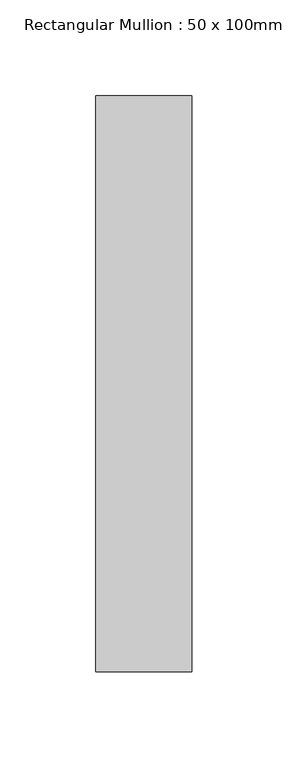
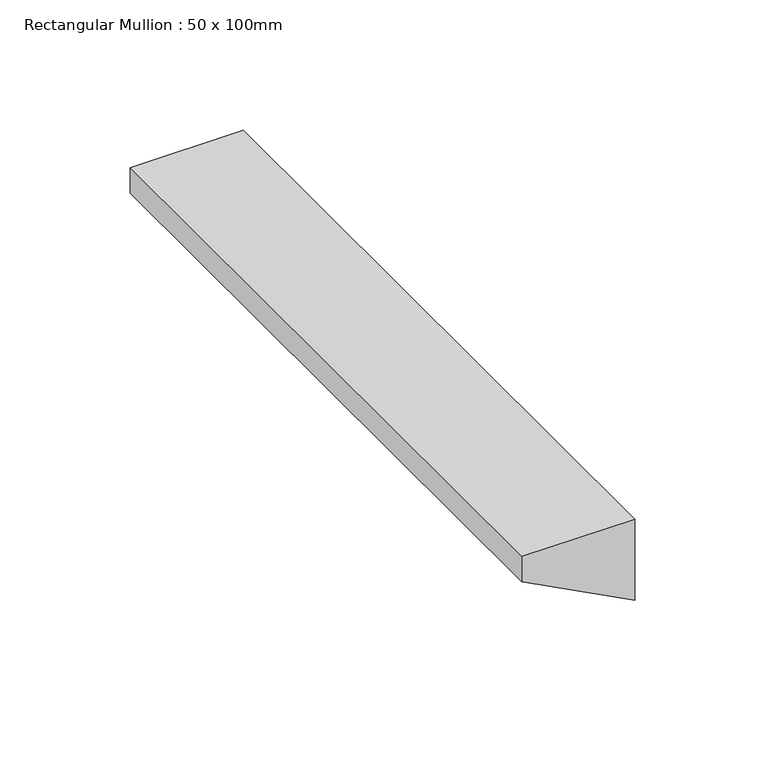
"""IFC4 building model written with IfcOpenShell, lengths in millimetres: member geometry, Rectangular Mullion : 50 x 100mm."""

import ifcopenshell
import ifcopenshell.guid

model = None  # the IFC model being written
_history = None  # IfcOwnerHistory: only IFC2X3 demands one
_inside = {}  # id of a spatial element -> (the spatial element, [elements in it])
_under = {}  # id of a project, library or spatial element -> (it, [spatial elements below it])
_declared = {}  # id of a project -> (the project, [libraries it declares])
_typed = {}  # id of a type object -> (the type object, [elements of that type])
_made_of = {}  # id of a material, layer set ... -> (it, [elements and type objects made of it])


def new_model(schema):
    """Start an empty IFC model of exactly this schema.

    Asked for "IFC4X3", IfcOpenShell would pick the latest addendum, in which some entities
    have other attributes; the version numbers below select the first issue.
    IFC2X3 requires an IfcOwnerHistory on every rooted entity: one is made here for all.
    """
    global model, _history
    if schema == "IFC4X3":
        model = ifcopenshell.file(schema_version=(4, 3, 0, 0))
    else:
        model = ifcopenshell.file(schema=schema)
    _inside.clear()
    _under.clear()
    _declared.clear()
    _typed.clear()
    _made_of.clear()
    _history = None
    if model.schema == "IFC2X3":
        org = make("IfcOrganization", Name="unknown")
        user = make(
            "IfcPersonAndOrganization",
            ThePerson=make("IfcPerson", FamilyName="unknown"),
            TheOrganization=org,
        )
        app = make(
            "IfcApplication",
            ApplicationDeveloper=org,
            Version="unknown",
            ApplicationFullName="unknown",
            ApplicationIdentifier="unknown",
        )
        _history = make(
            "IfcOwnerHistory",
            OwningUser=user,
            OwningApplication=app,
            ChangeAction="ADDED",
            CreationDate=0,
        )
    return model


def make(cls, **values):
    """One entity of the class cls with the attributes given. An attribute that is None is left unset."""
    return model.create_entity(
        cls, **{name: value for name, value in values.items() if value is not None}
    )


def rooted(cls, **values):
    """An entity with a GlobalId (a new one), such as an element, a storey or a relation."""
    return make(cls, GlobalId=ifcopenshell.guid.new(), OwnerHistory=_history, **values)


def si_unit(unit_type, name, prefix=None):
    """IfcSIUnit, for example si_unit("LENGTHUNIT", "METRE", prefix="MILLI")."""
    return make("IfcSIUnit", UnitType=unit_type, Prefix=prefix, Name=name)


def assignment(units):
    """IfcUnitAssignment: the units of a project."""
    return None if units is None else make("IfcUnitAssignment", Units=units)


def point(xyz):
    """IfcCartesianPoint."""
    return None if xyz is None else make("IfcCartesianPoint", Coordinates=xyz)


def direction(xyz):
    """IfcDirection."""
    return None if xyz is None else make("IfcDirection", DirectionRatios=xyz)


def frame(location, z_axis=None, x_axis=None):
    """IfcAxis2Placement3D, a coordinate frame: its origin and axes. An axis left out is left unset."""
    return make(
        "IfcAxis2Placement3D",
        Location=point(location),
        Axis=direction(z_axis),
        RefDirection=direction(x_axis),
    )


def origin():
    """The frame at (0, 0, 0) with its axes left unset."""
    return frame((0.0, 0.0, 0.0))


def place(relative_to, where):
    """IfcLocalPlacement: puts the frame where relative to a parent placement (None: the world)."""
    return make(
        "IfcLocalPlacement", PlacementRelTo=relative_to, RelativePlacement=where
    )


def context(
    kind, dimensions, precision=None, world=None, true_north=None, identifier=None
):
    """IfcGeometricRepresentationContext, for example the 3D "Model" context."""
    return make(
        "IfcGeometricRepresentationContext",
        ContextIdentifier=identifier,
        ContextType=kind,
        CoordinateSpaceDimension=dimensions,
        Precision=precision,
        WorldCoordinateSystem=world,
        TrueNorth=true_north,
    )


def project(units=None, contexts=None):
    """IfcProject with its units and contexts."""
    return rooted(
        "IfcProject",
        Name="project",
        RepresentationContexts=contexts,
        UnitsInContext=assignment(units),
    )


def spatial(cls, under=None, at=None, **own):
    """A site, building, storey or space (cls), placed at a placement, below another one or the project."""
    s = rooted(cls, ObjectPlacement=at, **own)
    if under is not None:
        _under.setdefault(under.id(), (under, []))[1].append(s)
    return s


def polyline(points):
    """IfcPolyline through the points."""
    return make("IfcPolyline", Points=[point(p) for p in points])


def outline(outer, holes=None, kind="AREA"):
    """IfcArbitraryClosedProfileDef: a profile drawn as a closed curve; with holes, ...WithVoids."""
    if holes is None:
        return make("IfcArbitraryClosedProfileDef", ProfileType=kind, OuterCurve=outer)
    return make(
        "IfcArbitraryProfileDefWithVoids",
        ProfileType=kind,
        OuterCurve=outer,
        InnerCurves=holes,
    )


def extrude(swept, where, along, depth):
    """IfcExtrudedAreaSolid: the profile swept, set in the frame where, extruded along a direction by depth."""
    return make(
        "IfcExtrudedAreaSolid",
        SweptArea=swept,
        Position=where,
        ExtrudedDirection=direction(along),
        Depth=depth,
    )


def shape(context_of_items, identifier, shape_type, items):
    """IfcShapeRepresentation: the items that make up one representation, for example the "Body"."""
    return make(
        "IfcShapeRepresentation",
        ContextOfItems=context_of_items,
        RepresentationIdentifier=identifier,
        RepresentationType=shape_type,
        Items=items,
    )


def source(mapping_origin, context_of_items, identifier, shape_type, items):
    """IfcRepresentationMap: a shape defined once, which mapped items show again and again."""
    return make(
        "IfcRepresentationMap",
        MappingOrigin=mapping_origin,
        MappedRepresentation=shape(context_of_items, identifier, shape_type, items),
    )


def transform(
    local_origin,
    x_axis=None,
    y_axis=None,
    z_axis=None,
    scale=None,
    scale2=None,
    scale3=None,
    uniform=True,
):
    """IfcCartesianTransformationOperator3D, or its non-uniform kind. x_axis, y_axis, z_axis: its Axis1, 2, 3."""
    if uniform:
        return make(
            "IfcCartesianTransformationOperator3D",
            Axis1=direction(x_axis),
            Axis2=direction(y_axis),
            LocalOrigin=point(local_origin),
            Scale=scale,
            Axis3=direction(z_axis),
        )
    return make(
        "IfcCartesianTransformationOperator3DnonUniform",
        Axis1=direction(x_axis),
        Axis2=direction(y_axis),
        LocalOrigin=point(local_origin),
        Scale=scale,
        Axis3=direction(z_axis),
        Scale2=scale2,
        Scale3=scale3,
    )


def mapped(mapping_source, mapping_target):
    """IfcMappedItem: shows the shape of a source again, moved by a transform."""
    return make(
        "IfcMappedItem", MappingSource=mapping_source, MappingTarget=mapping_target
    )


def made_of(thing, what):
    """Note that an element or type object is made of a material, layer set ...; save() writes the relation."""
    if what is not None:
        _made_of.setdefault(what.id(), (what, []))[1].append(thing)
    return thing


def element(
    cls,
    number,
    at=None,
    inside=None,
    cuts=None,
    type_object=None,
    material=None,
    context=None,
    identifier="Body",
    shape_type=None,
    held_by="IfcProductDefinitionShape",
    body=None,
    shapes=None,
    **own,
):
    """One element of the class cls, such as IfcWall. Its Tag is "e" and its number.

    at: its placement. inside: the storey or other place that contains it. cuts: it is an
    opening in that element (IfcRelVoidsElement). A single representation is given by context,
    identifier, shape_type and body (its items); several are given by shapes. held_by: the class
    of the entity that holds the representations. save() writes the other relations.
    """
    e = rooted(cls, Tag="e%d" % number, ObjectPlacement=at, **own)
    if body is not None:
        shapes = [shape(context, identifier, shape_type, body)]
    if shapes is not None:
        e.Representation = make(held_by, Representations=shapes)
    if inside is not None:
        _inside.setdefault(inside.id(), (inside, []))[1].append(e)
    if cuts is not None:
        rooted(
            "IfcRelVoidsElement", RelatingBuildingElement=cuts, RelatedOpeningElement=e
        )
    if type_object is not None:
        _typed.setdefault(type_object.id(), (type_object, []))[1].append(e)
    return made_of(e, material)


def aggregate(whole, parts):
    """IfcRelAggregates: a whole, such as a stair, and the parts it consists of."""
    return rooted("IfcRelAggregates", RelatingObject=whole, RelatedObjects=parts)


def save(model, path):
    """Write the relations noted so far, then the file.

    IfcRelAggregates (storeys below a building ...), IfcRelContainedInSpatialStructure (elements
    in a storey), IfcRelDefinesByType, IfcRelAssociatesMaterial and IfcRelDeclares: one each for
    every whole, place, type object, material and project.
    """
    for whole, parts in _under.values():
        aggregate(whole, parts)
    for where, things in _inside.values():
        rooted(
            "IfcRelContainedInSpatialStructure",
            RelatedElements=things,
            RelatingStructure=where,
        )
    for kind, things in _typed.values():
        rooted("IfcRelDefinesByType", RelatedObjects=things, RelatingType=kind)
    for what, things in _made_of.values():
        rooted("IfcRelAssociatesMaterial", RelatedObjects=things, RelatingMaterial=what)
    for by, libraries in _declared.values():
        rooted("IfcRelDeclares", RelatingContext=by, RelatedDefinitions=libraries)
    model.write(path)


def rectangular_mullion_50_x_100mm_7429a864(model_context):
    return source(origin(), model_context, "Body", "SweptSolid", [
        extrude(outline(polyline([(0.0, 0.0), (0.0, -50.0), (-11.9716475, -50.0), (-38.0, 0.0), (0.0, 0.0)])), frame((0.0, -125.0, 0.0), z_axis=(0.0, 1.0, 0.0), x_axis=(0.0, 0.0, 1.0)), (0.0, 0.0, 1.0), 300.0),
    ])


if __name__ == "__main__":
    model = new_model("IFC4")
    model_context = context("Model", 3, world=origin())
    ifc_project = project(units=[si_unit("LENGTHUNIT", "METRE", prefix="MILLI")], contexts=[model_context])
    site = spatial("IfcSite", under=ifc_project)
    building = spatial("IfcBuilding", under=site)
    placement = place(None, origin())
    rectangular_mullion_50_x_100mm_shape = rectangular_mullion_50_x_100mm_7429a864(model_context)
    element("IfcMember", 1, ObjectType="Rectangular Mullion : 50 x 100mm", at=placement, inside=building, context=model_context, shape_type="MappedRepresentation", body=[
        mapped(rectangular_mullion_50_x_100mm_shape, transform((0.0, 0.0, 0.0), x_axis=(1.0, 0.0, 0.0), y_axis=(0.0, 1.0, 0.0), z_axis=(0.0, 0.0, 1.0))),
    ])
    save(model, "model.ifc")
